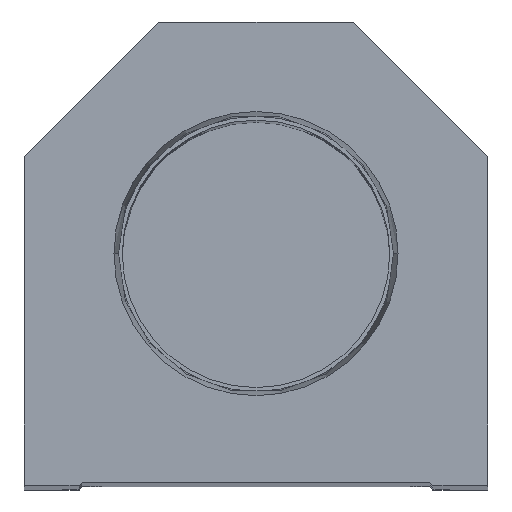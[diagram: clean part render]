
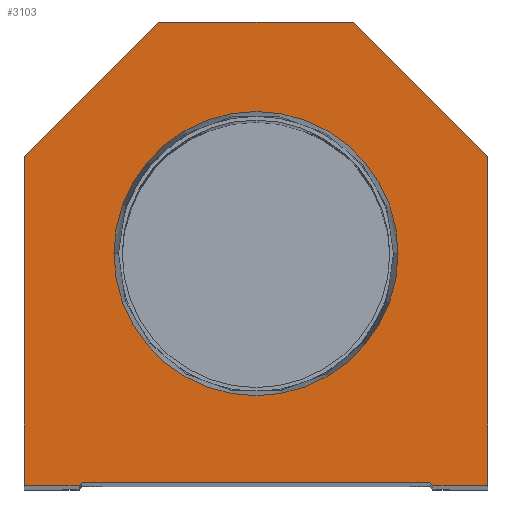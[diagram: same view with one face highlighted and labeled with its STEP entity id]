
A CAD part, top view. The second image highlights one B-rep face of the part: STEP entity #3103.
In plain terms, the highlighted planar face has unit normal (0, 0, 1).
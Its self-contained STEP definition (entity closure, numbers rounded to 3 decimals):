
#58 = VECTOR ( 'NONE', #12369, 1000. ) ;
#79 = DIRECTION ( 'NONE',  ( 1., 0., 0. ) ) ;
#460 = EDGE_LOOP ( 'NONE', ( #16211, #9986, #9583, #1322, #15855, #12411, #8291, #21244, #6112, #6442 ) ) ;
#1030 = CIRCLE ( 'NONE', #13376, 23.374 ) ;
#1104 = VECTOR ( 'NONE', #1326, 1000. ) ;
#1302 = LINE ( 'NONE', #14798, #5278 ) ;
#1322 = ORIENTED_EDGE ( 'NONE', *, *, #4491, .T. ) ;
#1326 = DIRECTION ( 'NONE',  ( 0.707, -0.707, 0. ) ) ;
#1492 = CARTESIAN_POINT ( 'NONE',  ( 0., 0., 0. ) ) ;
#1914 = LINE ( 'NONE', #12073, #15953 ) ;
#2033 = CARTESIAN_POINT ( 'NONE',  ( -38.1, 54.1, 0. ) ) ;
#2152 = VERTEX_POINT ( 'NONE', #17781 ) ;
#3007 = LINE ( 'NONE', #16300, #1104 ) ;
#3103 = ADVANCED_FACE ( 'NONE', ( #20004, #3282 ), #13081, .T. ) ;
#3282 = FACE_OUTER_BOUND ( 'NONE', #460, .T. ) ;
#4131 = ORIENTED_EDGE ( 'NONE', *, *, #12172, .F. ) ;
#4222 = LINE ( 'NONE', #19623, #16332 ) ;
#4491 = EDGE_CURVE ( 'NONE', #13940, #7138, #3007, .T. ) ;
#4545 = CARTESIAN_POINT ( 'NONE',  ( -28.6, 0.5, 0. ) ) ;
#4731 = EDGE_CURVE ( 'NONE', #15074, #13940, #14044, .T. ) ;
#5237 = EDGE_CURVE ( 'NONE', #5732, #8955, #14119, .T. ) ;
#5278 = VECTOR ( 'NONE', #21938, 1000. ) ;
#5672 = CARTESIAN_POINT ( 'NONE',  ( 0., 38.1, 0. ) ) ;
#5732 = VERTEX_POINT ( 'NONE', #2033 ) ;
#5752 = CARTESIAN_POINT ( 'NONE',  ( -38.1, 0., 0. ) ) ;
#5796 = EDGE_CURVE ( 'NONE', #14860, #17561, #20773, .T. ) ;
#5981 = LINE ( 'NONE', #12722, #19638 ) ;
#6112 = ORIENTED_EDGE ( 'NONE', *, *, #16552, .T. ) ;
#6442 = ORIENTED_EDGE ( 'NONE', *, *, #5237, .T. ) ;
#7005 = CARTESIAN_POINT ( 'NONE',  ( 28.6, 0.5, 0. ) ) ;
#7028 = DIRECTION ( 'NONE',  ( 1., 0., 0. ) ) ;
#7068 = DIRECTION ( 'NONE',  ( -0.707, -0.707, 0. ) ) ;
#7138 = VERTEX_POINT ( 'NONE', #20839 ) ;
#7312 = CARTESIAN_POINT ( 'NONE',  ( 16., 76.2, 0. ) ) ;
#8291 = ORIENTED_EDGE ( 'NONE', *, *, #17096, .T. ) ;
#8297 = EDGE_LOOP ( 'NONE', ( #9735, #4131 ) ) ;
#8337 = CARTESIAN_POINT ( 'NONE',  ( 38.1, 54.1, 0. ) ) ;
#8656 = DIRECTION ( 'NONE',  ( -1., 0., 0. ) ) ;
#8749 = CARTESIAN_POINT ( 'NONE',  ( 23.374, 38.1, 0. ) ) ;
#8955 = VERTEX_POINT ( 'NONE', #5752 ) ;
#9583 = ORIENTED_EDGE ( 'NONE', *, *, #4731, .T. ) ;
#9646 = DIRECTION ( 'NONE',  ( 1., 0., 0. ) ) ;
#9735 = ORIENTED_EDGE ( 'NONE', *, *, #13786, .F. ) ;
#9775 = DIRECTION ( 'NONE',  ( 1., 0., 0. ) ) ;
#9986 = ORIENTED_EDGE ( 'NONE', *, *, #13539, .T. ) ;
#10678 = DIRECTION ( 'NONE',  ( 0., 0., 1. ) ) ;
#10703 = CARTESIAN_POINT ( 'NONE',  ( -28.6, 0.5, 0. ) ) ;
#11488 = CARTESIAN_POINT ( 'NONE',  ( -16., 76.2, 0. ) ) ;
#11800 = CARTESIAN_POINT ( 'NONE',  ( 38.1, 54.1, 0. ) ) ;
#11871 = CARTESIAN_POINT ( 'NONE',  ( -29.1, 0., 0. ) ) ;
#12073 = CARTESIAN_POINT ( 'NONE',  ( -38.1, 54.1, 0. ) ) ;
#12172 = EDGE_CURVE ( 'NONE', #19073, #14213, #19104, .T. ) ;
#12333 = AXIS2_PLACEMENT_3D ( 'NONE', #5672, #12409, #79 ) ;
#12369 = DIRECTION ( 'NONE',  ( 0., 1., 0. ) ) ;
#12409 = DIRECTION ( 'NONE',  ( 0., 0., 1. ) ) ;
#12411 = ORIENTED_EDGE ( 'NONE', *, *, #16673, .T. ) ;
#12722 = CARTESIAN_POINT ( 'NONE',  ( 28.6, 0., 0. ) ) ;
#13081 = PLANE ( 'NONE',  #13450 ) ;
#13376 = AXIS2_PLACEMENT_3D ( 'NONE', #19015, #10678, #7028 ) ;
#13450 = AXIS2_PLACEMENT_3D ( 'NONE', #1492, #14994, #9775 ) ;
#13536 = DIRECTION ( 'NONE',  ( -0.707, 0.707, 0. ) ) ;
#13539 = EDGE_CURVE ( 'NONE', #21280, #15074, #1302, .T. ) ;
#13608 = CARTESIAN_POINT ( 'NONE',  ( -23.374, 38.1, 0. ) ) ;
#13786 = EDGE_CURVE ( 'NONE', #14213, #19073, #1030, .T. ) ;
#13791 = CARTESIAN_POINT ( 'NONE',  ( -38.1, 0., 0. ) ) ;
#13870 = VECTOR ( 'NONE', #8656, 1000. ) ;
#13940 = VERTEX_POINT ( 'NONE', #7005 ) ;
#14044 = LINE ( 'NONE', #10703, #14893 ) ;
#14119 = LINE ( 'NONE', #13791, #20613 ) ;
#14213 = VERTEX_POINT ( 'NONE', #8749 ) ;
#14798 = CARTESIAN_POINT ( 'NONE',  ( -14.55, 14.55, 0. ) ) ;
#14860 = VERTEX_POINT ( 'NONE', #15198 ) ;
#14893 = VECTOR ( 'NONE', #18667, 1000. ) ;
#14994 = DIRECTION ( 'NONE',  ( 0., 0., 1. ) ) ;
#15074 = VERTEX_POINT ( 'NONE', #4545 ) ;
#15198 = CARTESIAN_POINT ( 'NONE',  ( 16., 76.2, 0. ) ) ;
#15416 = CARTESIAN_POINT ( 'NONE',  ( 38.1, 0., 0. ) ) ;
#15619 = VECTOR ( 'NONE', #13536, 1000. ) ;
#15686 = EDGE_CURVE ( 'NONE', #8955, #21280, #4222, .T. ) ;
#15855 = ORIENTED_EDGE ( 'NONE', *, *, #19860, .T. ) ;
#15953 = VECTOR ( 'NONE', #7068, 1000. ) ;
#16211 = ORIENTED_EDGE ( 'NONE', *, *, #15686, .T. ) ;
#16300 = CARTESIAN_POINT ( 'NONE',  ( 14.55, 14.55, 0. ) ) ;
#16332 = VECTOR ( 'NONE', #19837, 1000. ) ;
#16552 = EDGE_CURVE ( 'NONE', #17561, #5732, #1914, .T. ) ;
#16673 = EDGE_CURVE ( 'NONE', #2152, #21898, #20637, .T. ) ;
#17096 = EDGE_CURVE ( 'NONE', #21898, #14860, #18440, .T. ) ;
#17561 = VERTEX_POINT ( 'NONE', #11488 ) ;
#17781 = CARTESIAN_POINT ( 'NONE',  ( 38.1, 0., 0. ) ) ;
#18440 = LINE ( 'NONE', #8337, #15619 ) ;
#18667 = DIRECTION ( 'NONE',  ( 1., 0., 0. ) ) ;
#19015 = CARTESIAN_POINT ( 'NONE',  ( 0., 38.1, 0. ) ) ;
#19073 = VERTEX_POINT ( 'NONE', #13608 ) ;
#19104 = CIRCLE ( 'NONE', #12333, 23.374 ) ;
#19623 = CARTESIAN_POINT ( 'NONE',  ( -28.6, 0., 0. ) ) ;
#19638 = VECTOR ( 'NONE', #9646, 1000. ) ;
#19837 = DIRECTION ( 'NONE',  ( 1., 0., 0. ) ) ;
#19860 = EDGE_CURVE ( 'NONE', #7138, #2152, #5981, .T. ) ;
#20004 = FACE_BOUND ( 'NONE', #8297, .T. ) ;
#20613 = VECTOR ( 'NONE', #20920, 1000. ) ;
#20637 = LINE ( 'NONE', #15416, #58 ) ;
#20773 = LINE ( 'NONE', #7312, #13870 ) ;
#20839 = CARTESIAN_POINT ( 'NONE',  ( 29.1, 0., 0. ) ) ;
#20920 = DIRECTION ( 'NONE',  ( 0., -1., 0. ) ) ;
#21244 = ORIENTED_EDGE ( 'NONE', *, *, #5796, .T. ) ;
#21280 = VERTEX_POINT ( 'NONE', #11871 ) ;
#21898 = VERTEX_POINT ( 'NONE', #11800 ) ;
#21938 = DIRECTION ( 'NONE',  ( 0.707, 0.707, 0. ) ) ;
